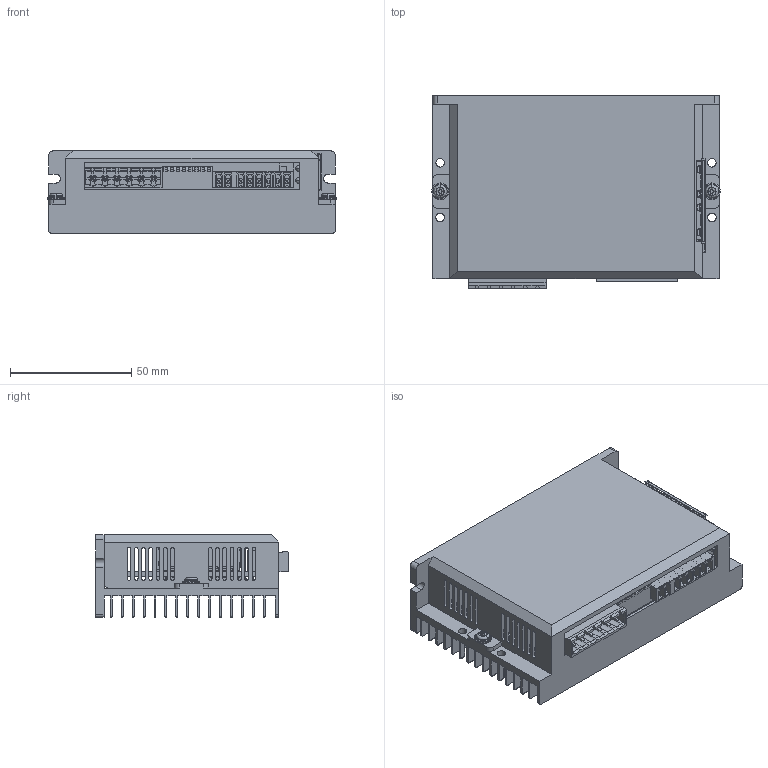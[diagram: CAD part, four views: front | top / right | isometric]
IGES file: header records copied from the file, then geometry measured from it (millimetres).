
Start section:  PTC IGES file: dm556-can.igs
Global section: file name: dm556-can.igs; native system: Pro/ENGINEER by Parametric Technology Corporation; preprocessor: 2008310; author: sunjun; organization: Unknown; date: 20170417.151115; units: millimetre
Bounding box: 119 x 79.5 x 34 mm (x, y, z)
Volume: 95260.8 mm3; surface area: 107467 mm2
Topology: 1 solids, 5 shells, 2191 faces, 6157 edges, 4087 vertices
Faces by surface type: bspline 1793, revolution 398
